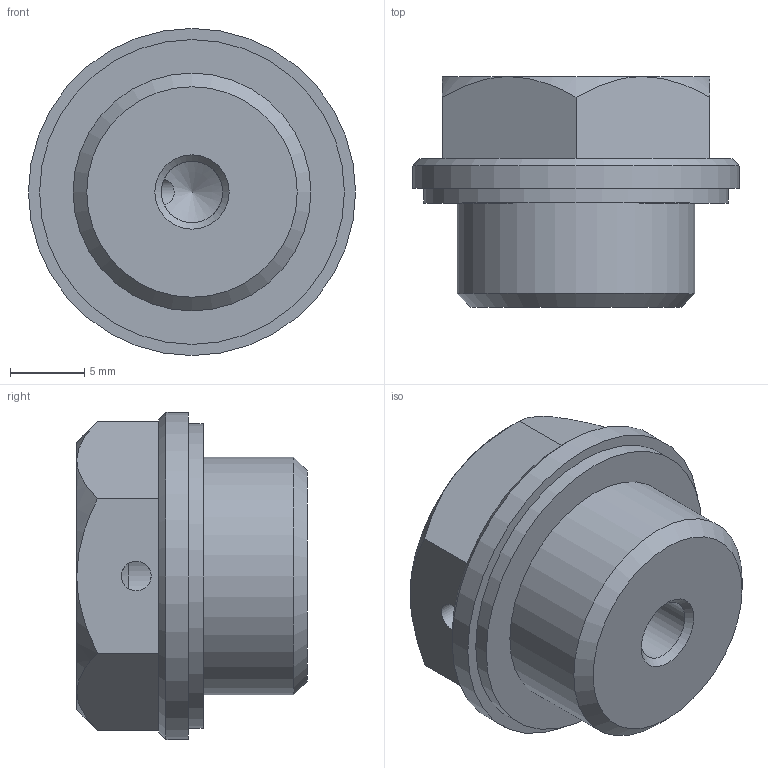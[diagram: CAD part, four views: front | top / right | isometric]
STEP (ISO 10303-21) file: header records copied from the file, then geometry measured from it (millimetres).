
FILE_DESCRIPTION( ( 'STEP AP203' ), '1' );
FILE_NAME( 'C:/Temp/Ganter_Step_05_03_2020/data/3_5/gn742/gn742_2/Threaded plug GN 742-22-M16x1,5-OS-2.stp', '2020-03-12T13:39:42', ( 'License CC BY-ND 4.0' ), ( 'CADENAS' ), ' ', 'PARTsolutions', ' ' );
FILE_SCHEMA( ( 'CONFIG_CONTROL_DESIGN' ) );
Length unit declared in the file: millimetre
Products named in the file (1): _Threaded plug GN 742-22-M16x1,5-OS-2
Bounding box: 22 x 15.5 x 22 mm (x, y, z)
Volume: 3811.2 mm3; surface area: 1783.4 mm2
Topology: 1 solids, 1 shells, 26 faces, 56 edges, 34 vertices
Faces by surface type: plane 11, cone 10, cylinder 5
Full cylindrical faces by diameter (mm): 2 x1, 4.134 x1, 16 x1, 20.5 x1, 22 x1
Entity records: 776 total; most frequent: CARTESIAN_POINT 229, DIRECTION 102, ORIENTED_EDGE 88, AXIS2_PLACEMENT_3D 45, EDGE_CURVE 44, EDGE_LOOP 39, VERTEX_POINT 32, FACE_OUTER_BOUND 31
